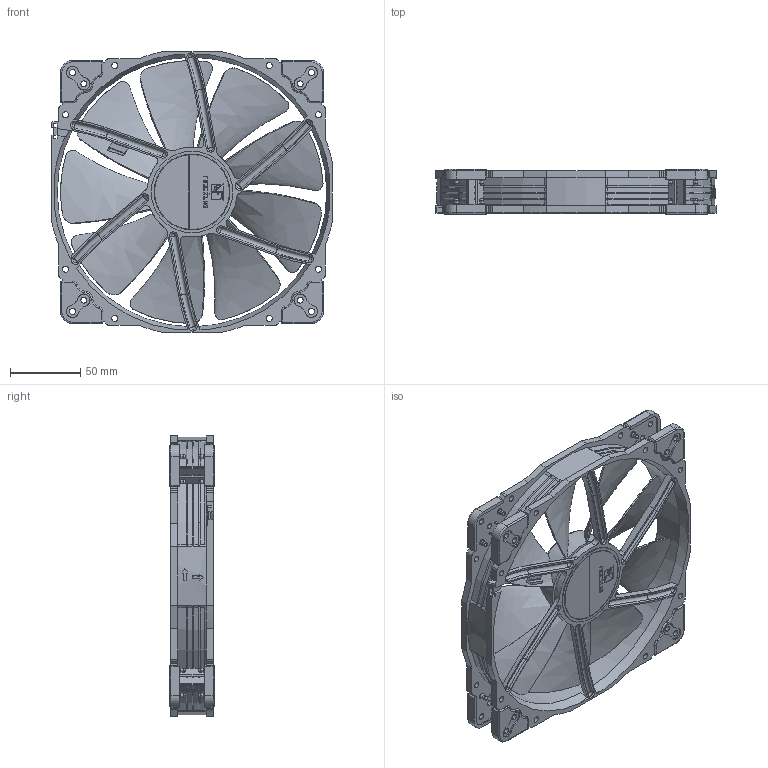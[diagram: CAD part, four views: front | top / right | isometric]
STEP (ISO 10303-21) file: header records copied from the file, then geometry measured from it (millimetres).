
FILE_DESCRIPTION(/* description */ ('140mm Desk Fan'),/* implementation_level */ '2;1');
FILE_NAME(/* name */ 'NF-A20_Public-CAD',/* time_stamp */ '2026-04-10T08:21:51+02:00',/* author */ ('Andreas'),/* organization */ ('Rascom'),/* preprocessor_version */ 'ST-DEVELOPER v18.102',/* originating_system */ 'Solid Edge',/* authorisation */ 'Unknown');
FILE_SCHEMA (('AUTOMOTIVE_DESIGN {1 0 10303 214 3 1 1}'));
Products named in the file (5): NF-A20_Public-CAD; NF-A20_Frame_Public; NF-A20_Impeller_Public; NA-AVP6; NF-A20_Lablel-Simple-JPEG
Assembly tree (11 placements, depth 2):
  NF-A20_Public-CAD
    NF-A20_Frame_Public
    NF-A20_Impeller_Public
    NA-AVP6  x8
    NF-A20_Lablel-Simple-JPEG
Bounding box: 200 x 32 x 200 mm (x, y, z)
Volume: 257752.6 mm3; surface area: 171544.4 mm2
Topology: 11 solids, 11 shells, 1703 faces, 4716 edges, 3014 vertices
Faces by surface type: cylinder 847, plane 475, torus 129, cone 104, bspline 88, sphere 60
Full cylindrical faces by diameter (mm): 54 x1, 58 x1, 62.5 x1, 192 x1
Entity records: 51034 total; most frequent: CARTESIAN_POINT 20661, ORIENTED_EDGE 6958, DIRECTION 4713, EDGE_CURVE 3479, VERTEX_POINT 2312, AXIS2_PLACEMENT_3D 1753, B_SPLINE_CURVE_WITH_KNOTS 1621, EDGE_LOOP 1405
